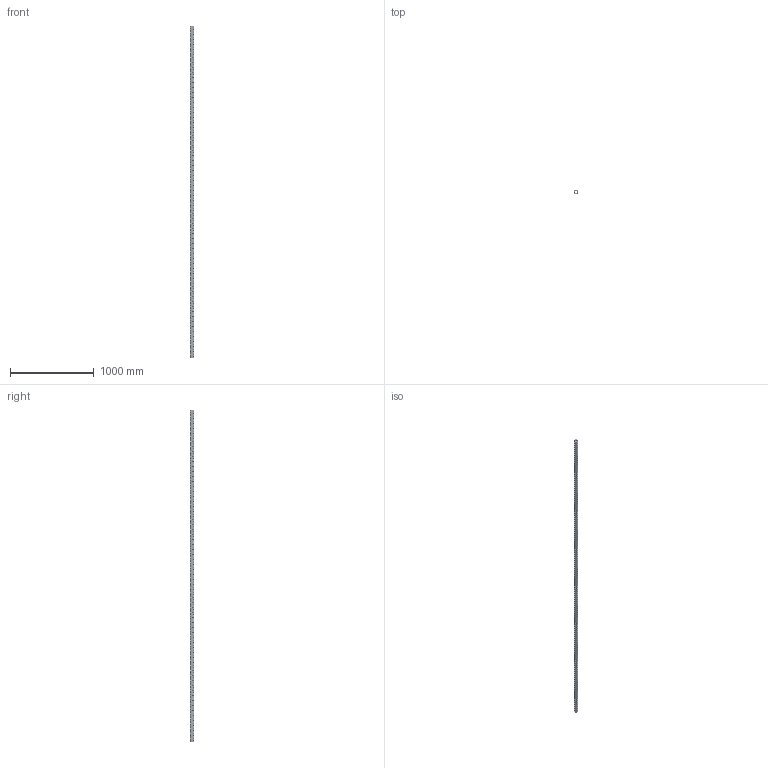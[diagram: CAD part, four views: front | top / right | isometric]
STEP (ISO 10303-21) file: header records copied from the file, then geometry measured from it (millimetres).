
FILE_DESCRIPTION(('CATIA V5 STEP Exchange'),'2;1');
FILE_NAME('U:\Room\唐宝山\EGT002\46-01-010361-01-EGT002-3958.stp','2021-08-25T01:06:48+00:00',('none'),('none'),'CATIA Version 5 Release 21 GA (IN-10)','CATIA V5 STEP AP203','none');
FILE_SCHEMA(('CONFIG_CONTROL_DESIGN'));
Products named in the file (1): 46-01-010361-01-EGT002-3958
Bounding box: 50 x 50 x 3958 mm (x, y, z)
Volume: 2820305.8 mm3; surface area: 1357939.5 mm2
Topology: 1 solids, 1 shells, 5364 faces, 14766 edges, 9140 vertices
Faces by surface type: cone 3168, cylinder 2170, plane 26
Entity records: 217483 total; most frequent: CARTESIAN_POINT 87268, ORIENTED_EDGE 29532, DIRECTION 21085, EDGE_CURVE 14766, AXIS2_PLACEMENT_3D 10048, VERTEX_POINT 9140, EDGE_LOOP 7214, VECTOR 5674
